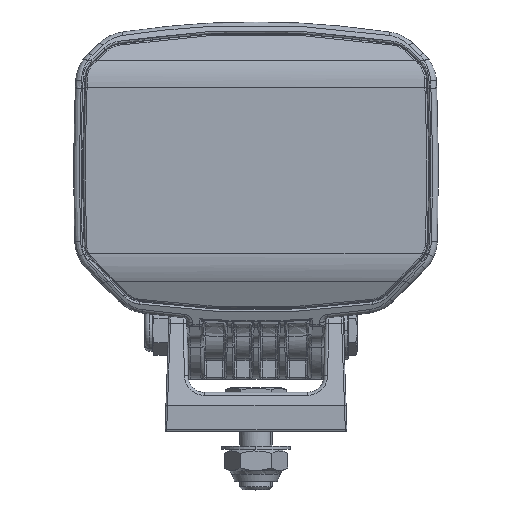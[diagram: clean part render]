
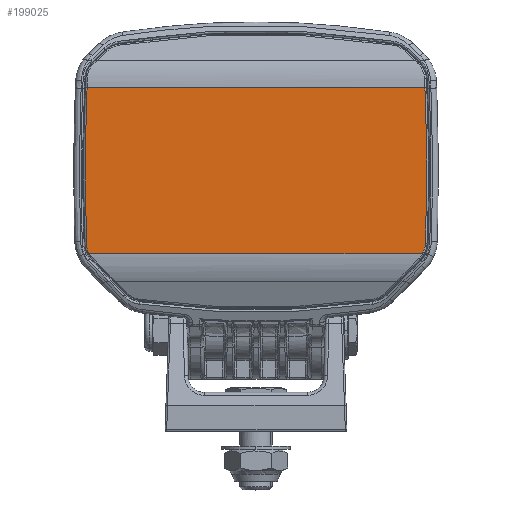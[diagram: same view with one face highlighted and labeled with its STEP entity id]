
A CAD part, top view. The second image highlights one B-rep face of the part: STEP entity #199025.
In plain terms, the highlighted planar face has unit normal (0, 0, 1).
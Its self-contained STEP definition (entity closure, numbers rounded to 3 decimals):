
#186877=AXIS2_PLACEMENT_3D('Circle Axis2P3D',#186875,#186876,$) ;
#189151=AXIS2_PLACEMENT_3D('Circle Axis2P3D',#189149,#189150,$) ;
#189176=AXIS2_PLACEMENT_3D('Circle Axis2P3D',#189174,#189175,$) ;
#189201=AXIS2_PLACEMENT_3D('Circle Axis2P3D',#189199,#189200,$) ;
#190923=AXIS2_PLACEMENT_3D('Circle Axis2P3D',#190921,#190922,$) ;
#190982=AXIS2_PLACEMENT_3D('Circle Axis2P3D',#190980,#190981,$) ;
#191014=AXIS2_PLACEMENT_3D('Circle Axis2P3D',#191012,#191013,$) ;
#191046=AXIS2_PLACEMENT_3D('Circle Axis2P3D',#191044,#191045,$) ;
#199006=AXIS2_PLACEMENT_3D('Plane Axis2P3D',#199003,#199004,#199005) ;
#186852=CARTESIAN_POINT('Vertex',(-51.281,-25.442,27.266)) ;
#186875=CARTESIAN_POINT('Axis2P3D Location',(-47.098,-22.731,27.266)) ;
#186879=CARTESIAN_POINT('Vertex',(-51.604,-24.864,27.266)) ;
#189111=CARTESIAN_POINT('Vertex',(51.141,-25.442,27.266)) ;
#189149=CARTESIAN_POINT('Axis2P3D Location',(-47.059,-22.713,27.266)) ;
#189153=CARTESIAN_POINT('Vertex',(-52.083,-22.907,27.266)) ;
#189174=CARTESIAN_POINT('Axis2P3D Location',(543.5,0.124,27.266)) ;
#189178=CARTESIAN_POINT('Vertex',(-51.982,25.632,27.266)) ;
#189199=CARTESIAN_POINT('Axis2P3D Location',(232.977,13.434,27.266)) ;
#189203=CARTESIAN_POINT('Vertex',(-51.98,25.69,27.266)) ;
#190918=CARTESIAN_POINT('Vertex',(51.447,-24.866,27.266)) ;
#190921=CARTESIAN_POINT('Axis2P3D Location',(45.158,-21.9,27.266)) ;
#190977=CARTESIAN_POINT('Vertex',(51.98,25.69,27.266)) ;
#190980=CARTESIAN_POINT('Axis2P3D Location',(-233.96,13.387,27.266)) ;
#190984=CARTESIAN_POINT('Vertex',(51.982,25.632,27.266)) ;
#191012=CARTESIAN_POINT('Axis2P3D Location',(-543.5,0.124,27.266)) ;
#191016=CARTESIAN_POINT('Vertex',(52.113,-22.132,27.266)) ;
#191044=CARTESIAN_POINT('Axis2P3D Location',(45.089,-21.87,27.266)) ;
#198984=CARTESIAN_POINT('Line Origine',(0.,25.69,27.266)) ;
#199003=CARTESIAN_POINT('Axis2P3D Location',(0.,-25.442,27.266)) ;
#199008=CARTESIAN_POINT('Line Origine',(0.,-25.442,27.266)) ;
#186876=DIRECTION('Axis2P3D Direction',(0.,0.,-1.)) ;
#189150=DIRECTION('Axis2P3D Direction',(0.,0.,-1.)) ;
#189175=DIRECTION('Axis2P3D Direction',(0.,-0.,-1.)) ;
#189200=DIRECTION('Axis2P3D Direction',(0.,-0.,-1.)) ;
#190922=DIRECTION('Axis2P3D Direction',(0.,0.,-1.)) ;
#190981=DIRECTION('Axis2P3D Direction',(0.,0.,-1.)) ;
#191013=DIRECTION('Axis2P3D Direction',(0.,0.,-1.)) ;
#191045=DIRECTION('Axis2P3D Direction',(0.,0.,-1.)) ;
#198985=DIRECTION('Vector Direction',(1.,0.,0.)) ;
#199004=DIRECTION('Axis2P3D Direction',(0.,0.,-1.)) ;
#199005=DIRECTION('Axis2P3D XDirection',(0.,1.,0.)) ;
#199009=DIRECTION('Vector Direction',(1.,0.,0.)) ;
#198986=VECTOR('Line Direction',#198985,1.) ;
#199010=VECTOR('Line Direction',#199009,1.) ;
#199014=ORIENTED_EDGE('',*,*,#189205,.F.) ;
#199015=ORIENTED_EDGE('',*,*,#189180,.F.) ;
#199016=ORIENTED_EDGE('',*,*,#189155,.F.) ;
#199017=ORIENTED_EDGE('',*,*,#186881,.F.) ;
#199018=ORIENTED_EDGE('',*,*,#199012,.T.) ;
#199019=ORIENTED_EDGE('',*,*,#190925,.F.) ;
#199020=ORIENTED_EDGE('',*,*,#191048,.F.) ;
#199021=ORIENTED_EDGE('',*,*,#191018,.F.) ;
#199022=ORIENTED_EDGE('',*,*,#190986,.F.) ;
#199023=ORIENTED_EDGE('',*,*,#198988,.F.) ;
#199025=ADVANCED_FACE('Houisng_gr',(#199024),#199007,.F.) ;
#186878=CIRCLE('generated circle',#186877,4.985) ;
#189152=CIRCLE('generated circle',#189151,5.028) ;
#189177=CIRCLE('generated circle',#189176,596.028) ;
#189202=CIRCLE('generated circle',#189201,285.221) ;
#190924=CIRCLE('generated circle',#190923,6.953) ;
#190983=CIRCLE('generated circle',#190982,286.205) ;
#191015=CIRCLE('generated circle',#191014,596.028) ;
#191047=CIRCLE('generated circle',#191046,7.028) ;
#186881=EDGE_CURVE('',#186853,#186880,#186878,.T.) ;
#189155=EDGE_CURVE('',#186880,#189154,#189152,.T.) ;
#189180=EDGE_CURVE('',#189154,#189179,#189177,.T.) ;
#189205=EDGE_CURVE('',#189179,#189204,#189202,.T.) ;
#190925=EDGE_CURVE('',#190919,#189112,#190924,.T.) ;
#190986=EDGE_CURVE('',#190978,#190985,#190983,.T.) ;
#191018=EDGE_CURVE('',#190985,#191017,#191015,.T.) ;
#191048=EDGE_CURVE('',#191017,#190919,#191047,.T.) ;
#198988=EDGE_CURVE('',#189204,#190978,#198987,.T.) ;
#199012=EDGE_CURVE('',#186853,#189112,#199011,.T.) ;
#199013=EDGE_LOOP('',(#199014,#199015,#199016,#199017,#199018,#199019,#199020,#199021,#199022,#199023)) ;
#199024=FACE_OUTER_BOUND('',#199013,.T.) ;
#198987=LINE('Line',#198984,#198986) ;
#199011=LINE('Line',#199008,#199010) ;
#199007=PLANE('',#199006) ;
#186853=VERTEX_POINT('',#186852) ;
#186880=VERTEX_POINT('',#186879) ;
#189112=VERTEX_POINT('',#189111) ;
#189154=VERTEX_POINT('',#189153) ;
#189179=VERTEX_POINT('',#189178) ;
#189204=VERTEX_POINT('',#189203) ;
#190919=VERTEX_POINT('',#190918) ;
#190978=VERTEX_POINT('',#190977) ;
#190985=VERTEX_POINT('',#190984) ;
#191017=VERTEX_POINT('',#191016) ;
